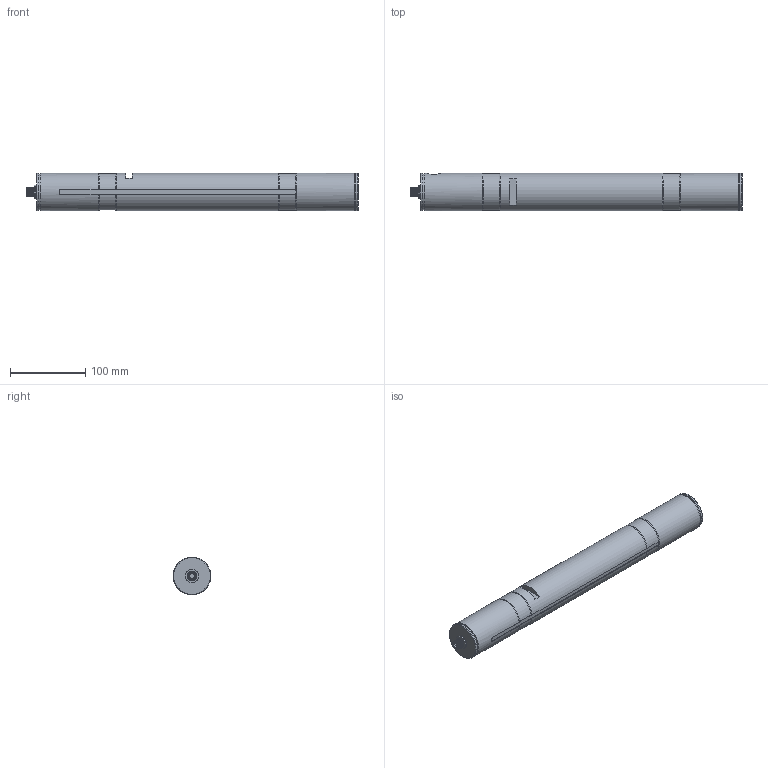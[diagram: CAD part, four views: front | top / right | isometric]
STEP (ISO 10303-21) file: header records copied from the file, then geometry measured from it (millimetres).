
FILE_DESCRIPTION(/* description */ ('Alibre Inc.'),/* implementation_level */ '2;1');
FILE_NAME(/* name */ 'export-2AAE92AC-37DC-4B8D-ABF7-1BB5595098FE',/* time_stamp */ '2019-03-19T16:00:50+01:00',/* author */ (''),/* organization */ (''),/* preprocessor_version */ 'ST-DEVELOPER v17',/* originating_system */ 'Alibre',/* authorisation */ '');
FILE_SCHEMA (('CONFIG_CONTROL_DESIGN'));
Length unit declared in the file: centimetre
Products named in the file (4): ID_1; ID_2; ID_3
Bounding box: 442 x 50 x 50 mm (x, y, z)
Volume: 883272.1 mm3; surface area: 151304.4 mm2
Topology: 7 solids, 8 shells, 162 faces, 366 edges, 232 vertices
Faces by surface type: plane 65, cylinder 56, bspline 23, torus 10, cone 8
Full cylindrical faces by diameter (mm): 0.5 x8, 8 x2, 10 x2, 11 x1, 11.5 x1, 13 x2, 14.5 x1, 19 x1, 19.6 x1, 20 x1, 47 x2, 50 x4
Entity records: 14890 total; most frequent: CARTESIAN_POINT 11641, ORIENTED_EDGE 642, DIRECTION 414, EDGE_CURVE 314, EDGE_LOOP 222, FACE_BOUND 222, VERTEX_POINT 214, AXIS2_PLACEMENT_3D 189
